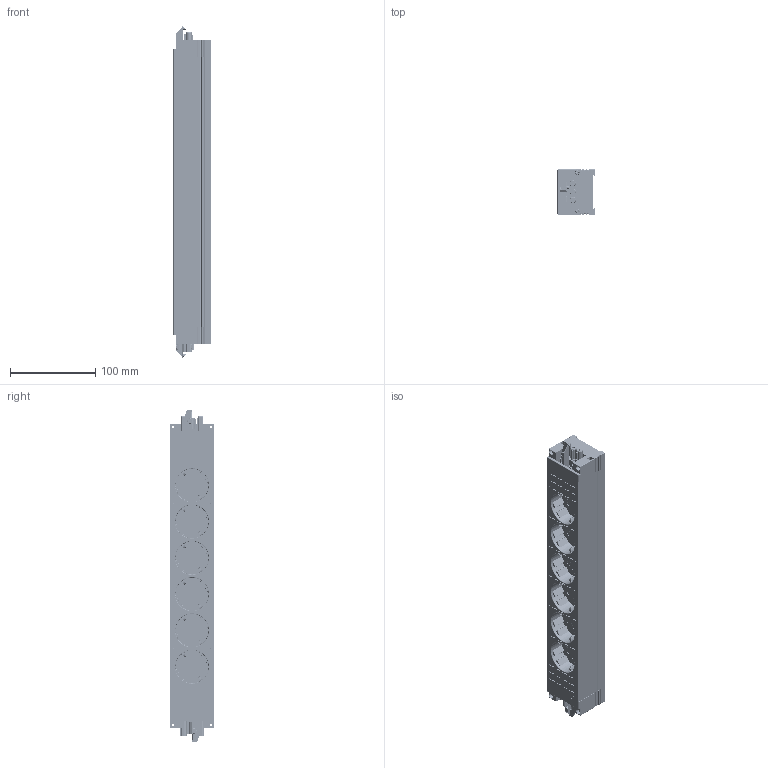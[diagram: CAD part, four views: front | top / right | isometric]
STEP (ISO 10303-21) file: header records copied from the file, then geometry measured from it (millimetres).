
FILE_DESCRIPTION(/* description */ (''),/* implementation_level */ '2;1');
FILE_NAME(/* name */ '906.12640.stp',/* time_stamp */ '2024-12-02T10:42:19+02:00',/* author */ ('popa.ovidiu'),/* organization */ (''),/* preprocessor_version */ 'ST-DEVELOPER v20',/* originating_system */ 'Autodesk Inventor 2025',/* authorisation */ '');
FILE_SCHEMA (('AUTOMOTIVE_DESIGN { 1 0 10303 214 3 1 1 }'));
Products named in the file (1): BG_906.12640
Bounding box: 43.8 x 52.4 x 389 mm (x, y, z)
Volume: 547822.3 mm3; surface area: 445868 mm2
Topology: 74 solids, 86 shells, 13011 faces, 35180 edges, 22838 vertices
Faces by surface type: plane 8512, cylinder 2199, bspline 1706, cone 239, torus 228, sphere 127
Full cylindrical faces by diameter (mm): 1 x12, 1.3 x12, 1.4 x12, 2.1 x42, 2.257 x6, 2.4 x28, 2.43 x6, 2.459 x3, 2.5 x39, 2.6 x6, 2.8 x3, 2.9 x40, 3 x31, 3.1 x15, 3.2 x24, 3.29 x1, 3.3 x2, 3.5 x4, 3.6 x12, 4 x29, 4.1 x3, 4.166 x6, 4.2 x3, 4.34 x6, 5.2 x4, 5.5 x12, 5.6 x12, 6 x24, 6.3 x2, 8.5 x12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
Entity records: 484268 total; most frequent: CARTESIAN_POINT 152633, ORIENTED_EDGE 70300, DIRECTION 58732, EDGE_CURVE 35150, LINE 25360, VECTOR 25360, VERTEX_POINT 22837, AXIS2_PLACEMENT_3D 16686
